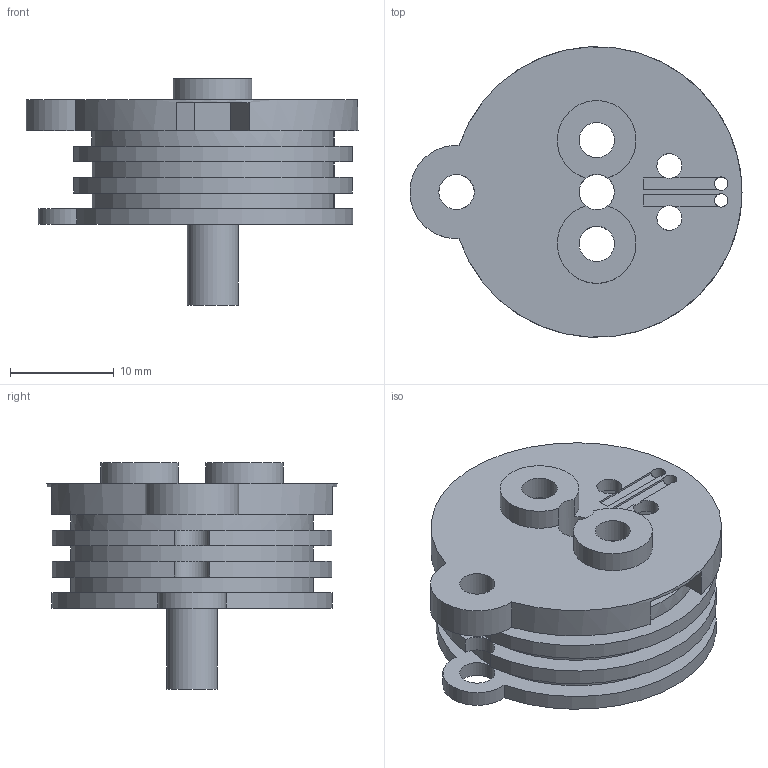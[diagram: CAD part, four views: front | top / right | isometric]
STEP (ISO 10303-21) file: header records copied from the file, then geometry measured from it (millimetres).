
FILE_DESCRIPTION(('Open CASCADE Model'),'2;1');
FILE_NAME('P06-yaw_rotor.step', '', ('Noah Wilson'), (''), '', '', '');
FILE_SCHEMA(('AUTOMOTIVE_DESIGN { 1 0 10303 214 1 1 1 1 }'));
Length unit declared in the file: millimetre
Products named in the file (1): COMPOUND
Bounding box: 31.98 x 27.97 x 21.8 mm (x, y, z)
Volume: 3122.8 mm3; surface area: 4621.6 mm2
Topology: 1 solids, 1 shells, 90 faces, 278 edges, 181 vertices
Faces by surface type: plane 56, cylinder 33, torus 1
Full cylindrical faces by diameter (mm): 1.3 x2, 2.4 x2, 3.4 x5, 4.9 x1, 6.4 x1, 21 x1
Entity records: 7144 total; most frequent: CARTESIAN_POINT 1604, DIRECTION 1050, ORIENTED_EDGE 556, PCURVE 556, DEFINITIONAL_REPRESENTATION 556, LINE 514, VECTOR 514, EDGE_CURVE 278
